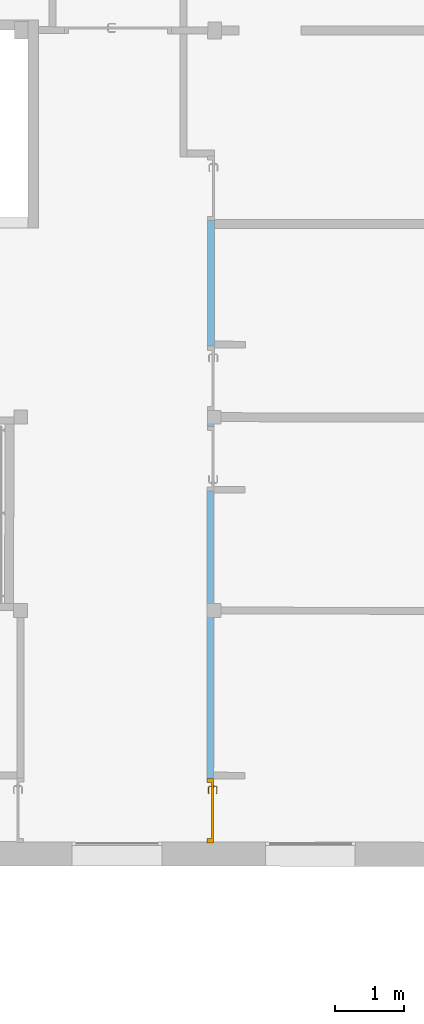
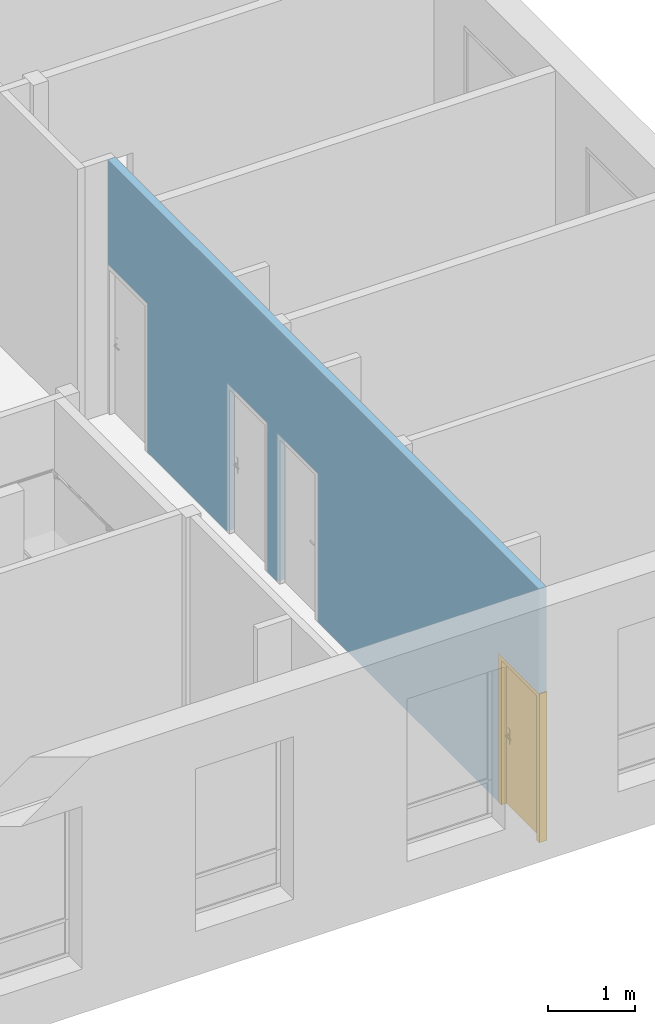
# One storey, part 74 of 101: 1 door, 4 openings, plus 1 element that does not belong to this part.
"""IFC2X3 building model written with IfcOpenShell, lengths in metres."""

from ifc_helpers import new_model, entity, si_unit, converted_unit, derived_unit, direction, frame, frame_2d, origin, place, context, subcontext, project, spatial, rectangle, extrude, faceted_brep, source, transform, mapped, material, material_list, layer, layer_set, layer_usage, type_object, type_shapes, element, fill, save


model = new_model("IFC2X3")

# Units and contexts
model_context = context("Model", 3, precision=1e-05, world=origin(), true_north=direction((6.123233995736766e-17, 1.0)))
body_context = subcontext(model_context, "Body", "Model", "MODEL_VIEW")
ifc_project = project(units=[si_unit("LENGTHUNIT", "METRE"), si_unit("AREAUNIT", "SQUARE_METRE"), converted_unit("PLANEANGLEUNIT", "DEGREE", entity("IfcPlaneAngleMeasure", 0.017453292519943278), si_unit("PLANEANGLEUNIT", "RADIAN"), dimensions=[0, 0, 0, 0, 0, 0, 0]), derived_unit("THERMALTRANSMITTANCEUNIT", [(si_unit("MASSUNIT", "GRAM", prefix="KILO"), 1), (si_unit("THERMODYNAMICTEMPERATUREUNIT", "KELVIN"), -1), (si_unit("TIMEUNIT", "SECOND"), -3)])], contexts=[model_context])

# Site, building, storey
site_placement = place(None, frame((1253.6752467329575, 2072.143113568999, 91.49999999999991), z_axis=(0.0, 0.0, 1.0), x_axis=(0.7237211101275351, 0.6900925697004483, 0.0)))
site = spatial("IfcSite", under=ifc_project, at=site_placement, Name="Surface", CompositionType="ELEMENT")
building_placement = place(site_placement, origin())
building = spatial("IfcBuilding", under=site, at=building_placement, CompositionType="ELEMENT")
storey_placement = place(building_placement, origin())
storey = spatial("IfcBuildingStorey", under=building, at=storey_placement, Name="0- Rdc", CompositionType="ELEMENT", Elevation=-5.764692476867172e-13)

# Wall, openings, door
ifc_material_1 = material(Name="OMD_Béton blanc")
ifc_layer = layer(ifc_material_1, 0.1)
ifc_layer_set = layer_set([ifc_layer], Name="Mur de base:MUR 10")
ifc_layer_usage = layer_usage(ifc_layer_set, "AXIS2", "NEGATIVE", 0.05)
wall_type = type_object("IfcWallType", Name="Mur de base:MUR 10", PredefinedType="STANDARD", material=ifc_layer_set)
wall_placement = place(storey_placement, frame((182.31139510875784, -18.405602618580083, 0.0), z_axis=(0.0, 0.0, 1.0), x_axis=(-0.6909838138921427, -0.7228702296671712, 0.0)))
wall = element("IfcWallStandardCase", 1, at=wall_placement, inside=storey, type_object=wall_type, material=ifc_layer_usage, Name="Mur de base:MUR 10", ObjectType="Mur de base:MUR 10", context=body_context, shape_type="SweptSolid", body=[
    extrude(rectangle(XDim=9.914999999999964, YDim=0.10000000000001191, at=frame_2d((4.957499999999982, 2.4424906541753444e-15), x_axis=(-1.0, 0.0))), origin(), (0.0, 0.0, 1.0), 3.5499999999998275),
])
opening_1_placement = place(wall_placement, frame((-0.01749999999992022, -0.04999999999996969, 0.0)))
element("IfcOpeningElement", 2, at=opening_1_placement, cuts=wall, Name="OMD_Porte 1V tunnel:80x204:1", ObjectType="Opening", context=body_context, shape_type="SweptSolid", body=[
    extrude(rectangle(XDim=2.0850000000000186, YDim=0.9349999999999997, at=frame_2d((1.0425000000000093, 0.46749999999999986), x_axis=(1.0, 0.0))), frame((0.0, 0.0, 0.0), z_axis=(0.0, 1.0, 0.0), x_axis=(0.0, 0.0, 1.0)), (0.0, 0.0, 1.0), 0.1),
])
opening_2_placement = place(wall_placement, frame((2.7375000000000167, -0.04999999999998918, 0.0)))
element("IfcOpeningElement", 3, at=opening_2_placement, cuts=wall, Name="OMD_Porte 1V tunnel:80x204:1", ObjectType="Opening", context=body_context, shape_type="SweptSolid", body=[
    extrude(rectangle(XDim=2.0850000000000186, YDim=0.9349999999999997, at=frame_2d((1.0425000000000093, 0.46749999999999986), x_axis=(1.0, 0.0))), frame((0.0, 0.0, 0.0), z_axis=(0.0, 1.0, 0.0), x_axis=(0.0, 0.0, 1.0)), (0.0, 0.0, 1.0), 0.1),
])
opening_3_placement = place(wall_placement, frame((3.8974999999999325, -0.04999999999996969, 0.0)))
element("IfcOpeningElement", 4, at=opening_3_placement, cuts=wall, Name="OMD_Porte 1V tunnel:80x204:1", ObjectType="Opening", context=body_context, shape_type="SweptSolid", body=[
    extrude(rectangle(XDim=2.0850000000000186, YDim=0.9349999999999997, at=frame_2d((1.0425000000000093, 0.46749999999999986), x_axis=(1.0, 0.0))), frame((0.0, 0.0, 0.0), z_axis=(0.0, 1.0, 0.0), x_axis=(0.0, 0.0, 1.0)), (0.0, 0.0, 1.0), 0.1),
])
opening_4_placement = place(wall_placement, frame((8.992500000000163, -0.050000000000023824, 0.0)))
opening_4 = element("IfcOpeningElement", 5, at=opening_4_placement, cuts=wall, Name="OMD_Porte 1V tunnel:80x204:1", ObjectType="Opening", context=body_context, shape_type="SweptSolid", body=[
    extrude(rectangle(XDim=2.0850000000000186, YDim=0.9349999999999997, at=frame_2d((1.0425000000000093, 0.46749999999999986), x_axis=(1.0, 0.0))), frame((0.0, 0.0, 0.0), z_axis=(0.0, 1.0, 0.0), x_axis=(0.0, 0.0, 1.0)), (0.0, 0.0, 1.0), 0.1),
])
ifc_material_2 = material(Name="Porte - Poignée")
ifc_material_3 = material(Name="OMD_Peinture mur")
ifc_material_4 = material(Name="OMD_Bois")
ifc_material_list = material_list([ifc_material_2, ifc_material_3, ifc_material_4])
door_style = type_object("IfcDoorStyle", Name="OMD_Porte 1V tunnel:80x204", ConstructionType="NOTDEFINED", OperationType="NOTDEFINED", ParameterTakesPrecedence=False, Sizeable=False, material=ifc_material_list)
shared_shape = source(origin(), body_context, "Body", "Brep", [
    faceted_brep([(0.8220252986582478, 0.03500000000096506, 1.0077804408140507), (0.8179747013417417, 0.03500000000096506, 1.007780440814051), (0.8139999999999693, 0.03500000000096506, 1.00699999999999), (0.8139999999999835, 0.03500000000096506, 0.9930000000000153), (0.8179747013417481, 0.03500000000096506, 0.9922195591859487), (0.8220252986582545, 0.03500000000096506, 0.9922195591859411), (0.8260000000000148, 0.03500000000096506, 0.9929999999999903), (0.826000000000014, 0.03500000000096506, 1.006999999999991), (0.8139999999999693, 0.05748520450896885, 1.00699999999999), (0.8139999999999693, 0.05748520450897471, 0.9930000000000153), (0.8179747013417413, 0.059131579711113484, 1.007780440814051), (0.8220252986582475, 0.060809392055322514, 1.0077804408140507), (0.8058389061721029, 0.07699578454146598, 1.0077804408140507), (0.8041610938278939, 0.07294518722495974, 1.007780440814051), (0.7207931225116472, 0.07294518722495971, 1.0077804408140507), (0.7191153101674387, 0.07699578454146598, 1.0077804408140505), (0.7114510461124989, 0.06933152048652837, 1.0077804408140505), (0.714315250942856, 0.0664673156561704, 1.0077804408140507), (0.8260000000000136, 0.062455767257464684, 1.006999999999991), (0.8260000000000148, 0.062455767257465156, 0.9929999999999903), (0.8220252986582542, 0.06080939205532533, 0.9922195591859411), (0.8179747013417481, 0.05913157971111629, 0.9922195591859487), (0.8041610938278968, 0.07294518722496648, 0.9922195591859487), (0.8058389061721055, 0.07699578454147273, 0.9922195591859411), (0.7191153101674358, 0.07699578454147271, 0.9922195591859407), (0.7207931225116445, 0.07294518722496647, 0.9922195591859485), (0.7143152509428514, 0.06646731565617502, 0.9922195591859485), (0.7114510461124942, 0.06933152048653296, 0.9922195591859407), (0.8025147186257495, 0.06897048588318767, 1.00699999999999), (0.8025147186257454, 0.06897048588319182, 0.9930000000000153), (0.8074852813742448, 0.08097048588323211, 1.006999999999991), (0.8074852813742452, 0.08097048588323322, 0.9929999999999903), (0.7624771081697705, 0.06897048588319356, 1.0069999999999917), (0.7224394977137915, 0.06897048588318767, 1.0069999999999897), (0.7224394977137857, 0.0689704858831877, 0.9930000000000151), (0.7624771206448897, 0.06897048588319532, 0.9930000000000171), (0.7624771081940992, 0.07512492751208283, 1.0078781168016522), (0.7573994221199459, 0.08097048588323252, 1.0069999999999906), (0.7174689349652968, 0.08097048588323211, 1.0069999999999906), (0.7675547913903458, 0.08097048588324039, 0.9929999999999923), (0.7174689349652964, 0.08097048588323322, 0.99299999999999), (0.762477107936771, 0.07512492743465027, 0.9921218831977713), (0.7086405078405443, 0.07214205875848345, 1.0069999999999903), (0.7086405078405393, 0.07214205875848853, 0.9929999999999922), (0.7171257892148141, 0.06365677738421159, 0.9930000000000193), (0.71712578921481, 0.06365677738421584, 1.0069999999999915)], [[[0, 1, 2, 3, 4, 5, 6, 7]], [[8, 9, 3, 2]], [[1, 10, 8, 2]], [[1, 0, 11, 12, 13, 10]], [[14, 15, 16, 17]], [[7, 18, 11, 0]], [[18, 7, 6, 19]], [[6, 5, 20, 19]], [[5, 4, 21, 22, 23, 20]], [[24, 25, 26, 27]], [[4, 3, 9, 21]], [[28, 29, 9, 8]], [[8, 10, 13, 28]], [[18, 30, 12, 11]], [[31, 30, 18, 19]], [[19, 20, 23, 31]], [[21, 9, 29, 22]], [[29, 28, 32, 33, 34, 35]], [[36, 32, 13]], [[37, 38, 15]], [[37, 12, 30]], [[36, 12, 37]], [[14, 32, 36]], [[36, 15, 14]], [[28, 13, 32]], [[32, 14, 33]], [[12, 36, 13]], [[15, 36, 37]], [[30, 31, 39, 40, 38, 37]], [[23, 41, 39]], [[24, 39, 41]], [[39, 31, 23]], [[39, 24, 40]], [[22, 35, 41]], [[41, 23, 22]], [[41, 35, 25]], [[35, 22, 29]], [[34, 25, 35]], [[24, 41, 25]], [[17, 16, 42, 43, 27, 26, 44, 45]], [[45, 44, 34, 33]], [[33, 14, 17, 45]], [[15, 38, 42, 16]], [[43, 42, 38, 40]], [[24, 27, 43, 40]], [[34, 44, 26, 25]]]),
    faceted_brep([(0.817974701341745, -0.004999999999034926, 1.007780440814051), (0.8220252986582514, -0.004999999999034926, 1.0077804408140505), (0.8260000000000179, -0.004999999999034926, 1.0069999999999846), (0.8260000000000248, -0.004999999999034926, 0.9929999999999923), (0.8220252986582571, -0.004999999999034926, 0.992219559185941), (0.817974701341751, -0.004999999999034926, 0.9922195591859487), (0.8139999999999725, -0.004999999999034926, 0.9930000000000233), (0.8139999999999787, -0.004999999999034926, 1.006999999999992), (0.8220252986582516, -0.03100457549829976, 1.0077804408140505), (0.8260000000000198, -0.03265095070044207, 1.0069999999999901), (0.8179747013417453, -0.02932676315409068, 1.007780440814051), (0.8042986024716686, -0.04300286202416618, 1.007780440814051), (0.8059764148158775, -0.04705345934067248, 1.0077804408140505), (0.7191424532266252, -0.04705345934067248, 1.0077804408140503), (0.7208202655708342, -0.04300286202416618, 1.0077804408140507), (0.714342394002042, -0.03652499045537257, 1.0077804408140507), (0.7114781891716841, -0.039389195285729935, 1.0077804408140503), (0.813999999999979, -0.02768038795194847, 1.006999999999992), (0.8139999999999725, -0.02768038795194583, 0.9930000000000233), (0.817974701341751, -0.029326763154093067, 0.9922195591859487), (0.8220252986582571, -0.031004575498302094, 0.992219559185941), (0.8059764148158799, -0.0470534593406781, 0.992219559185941), (0.804298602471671, -0.04300286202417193, 0.9922195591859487), (0.7208202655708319, -0.04300286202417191, 0.9922195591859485), (0.7191424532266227, -0.047053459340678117, 0.9922195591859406), (0.71147818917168, -0.03938919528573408, 0.9922195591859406), (0.7143423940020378, -0.036524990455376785, 0.9922195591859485), (0.8260000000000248, -0.032650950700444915, 0.9929999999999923), (0.807622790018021, -0.051028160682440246, 1.0069999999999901), (0.8026522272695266, -0.03902816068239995, 1.006999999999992), (0.8026522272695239, -0.03902816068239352, 0.9930000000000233), (0.8076227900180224, -0.05102816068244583, 0.9929999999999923), (0.762559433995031, -0.0451828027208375, 1.0078781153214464), (0.7676923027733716, -0.05102816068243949, 1.0069999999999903), (0.7174960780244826, -0.05102816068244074, 1.00699999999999), (0.7625594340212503, -0.03902816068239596, 1.0069999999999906), (0.7224666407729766, -0.039028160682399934, 1.0069999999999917), (0.7625594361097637, -0.03902816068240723, 0.9930000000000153), (0.7224666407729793, -0.03902816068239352, 0.9930000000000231), (0.7625594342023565, -0.04518280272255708, 0.9921218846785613), (0.7574265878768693, -0.051028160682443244, 0.9929999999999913), (0.7174960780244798, -0.05102816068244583, 0.9929999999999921), (0.7171529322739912, -0.033714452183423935, 0.9930000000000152), (0.7086676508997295, -0.04219973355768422, 0.9929999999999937), (0.7086676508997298, -0.04219973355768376, 1.0069999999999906), (0.717152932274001, -0.03371445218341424, 1.0069999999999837)], [[[0, 1, 2, 3, 4, 5, 6, 7]], [[2, 1, 8, 9]], [[1, 0, 10, 11, 12, 8]], [[13, 14, 15, 16]], [[0, 7, 17, 10]], [[18, 17, 7, 6]], [[5, 19, 18, 6]], [[5, 4, 20, 21, 22, 19]], [[23, 24, 25, 26]], [[3, 27, 20, 4]], [[9, 27, 3, 2]], [[9, 8, 12, 28]], [[10, 17, 29, 11]], [[30, 29, 17, 18]], [[18, 19, 22, 30]], [[20, 27, 31, 21]], [[28, 31, 27, 9]], [[12, 32, 33]], [[13, 33, 32]], [[33, 28, 12]], [[33, 13, 34]], [[11, 35, 32]], [[32, 12, 11]], [[32, 35, 14]], [[35, 11, 29]], [[36, 14, 35]], [[13, 32, 14]], [[29, 30, 37, 38, 36, 35]], [[39, 37, 22]], [[40, 41, 24]], [[40, 21, 31]], [[39, 21, 40]], [[23, 37, 39]], [[39, 24, 23]], [[30, 22, 37]], [[37, 23, 38]], [[21, 39, 22]], [[24, 39, 40]], [[31, 28, 33, 34, 41, 40]], [[42, 26, 25, 43, 44, 16, 15, 45]], [[13, 16, 44, 34]], [[36, 45, 15, 14]], [[42, 45, 36, 38]], [[38, 23, 26, 42]], [[24, 41, 43, 25]], [[44, 43, 41, 34]]]),
    faceted_brep([(0.8199999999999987, 0.030000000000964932, 0.8646410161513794), (0.8303527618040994, 0.03000000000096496, 0.866003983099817), (0.8399999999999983, 0.030000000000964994, 0.8700000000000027), (0.8399999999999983, 0.030000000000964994, 1.0800000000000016), (0.8303527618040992, 0.03000000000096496, 1.0839960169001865), (0.8199999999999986, 0.030000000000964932, 1.0853589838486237), (0.809647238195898, 0.030000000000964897, 1.0839960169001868), (0.7999999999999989, 0.030000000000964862, 1.0800000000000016), (0.7999999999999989, 0.030000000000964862, 0.8700000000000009), (0.8096472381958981, 0.030000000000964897, 0.8660039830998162), (0.8199999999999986, 0.03500000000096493, 1.0853589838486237), (0.8303527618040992, 0.03500000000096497, 1.0839960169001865), (0.8399999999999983, 0.035000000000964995, 1.0800000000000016), (0.8399999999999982, 0.035000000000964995, 0.8700000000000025), (0.8303527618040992, 0.03500000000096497, 0.866003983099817), (0.8199999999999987, 0.03500000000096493, 0.8646410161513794), (0.8096472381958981, 0.0350000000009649, 0.8660039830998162), (0.7999999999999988, 0.03500000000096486, 0.8700000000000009), (0.7999999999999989, 0.03500000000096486, 1.0800000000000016), (0.809647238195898, 0.0350000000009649, 1.0839960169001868)], [[[0, 1, 2, 3, 4, 5, 6, 7, 8, 9]], [[10, 11, 12, 13, 14, 15, 16, 17, 18, 19]], [[6, 19, 18, 7]], [[5, 10, 19, 6]], [[4, 11, 10, 5]], [[4, 3, 12, 11]], [[12, 3, 2, 13]], [[1, 14, 13, 2]], [[0, 15, 14, 1]], [[9, 16, 15, 0]], [[9, 8, 17, 16]], [[17, 8, 7, 18]]]),
    faceted_brep([(0.819999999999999, -0.004999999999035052, 0.8646410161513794), (0.8303527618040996, -0.0049999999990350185, 0.8660039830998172), (0.8399999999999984, -0.004999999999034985, 0.8700000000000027), (0.8399999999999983, -0.004999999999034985, 1.0800000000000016), (0.8303527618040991, -0.0049999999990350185, 1.0839960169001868), (0.8199999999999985, -0.004999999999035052, 1.0853589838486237), (0.8096472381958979, -0.004999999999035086, 1.0839960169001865), (0.7999999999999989, -0.004999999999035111, 1.0800000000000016), (0.7999999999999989, -0.004999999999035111, 0.8700000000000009), (0.8096472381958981, -0.004999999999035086, 0.8660039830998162), (0.8399999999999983, 0.0, 1.0800000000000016), (0.8399999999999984, 0.0, 0.8700000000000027), (0.8303527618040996, 0.0, 0.8660039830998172), (0.819999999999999, 0.0, 0.8646410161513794), (0.8096472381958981, 0.0, 0.8660039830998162), (0.7999999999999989, 0.0, 0.8700000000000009), (0.7999999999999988, 0.0, 1.0800000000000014), (0.8096472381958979, 0.0, 1.0839960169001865), (0.8199999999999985, 0.0, 1.0853589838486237), (0.8303527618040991, 0.0, 1.0839960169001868)], [[[0, 1, 2, 3, 4, 5, 6, 7, 8, 9]], [[10, 11, 12, 13, 14, 15, 16, 17, 18, 19]], [[1, 12, 11, 2]], [[0, 13, 12, 1]], [[9, 14, 13, 0]], [[9, 8, 15, 14]], [[15, 8, 7, 16]], [[6, 17, 16, 7]], [[5, 18, 17, 6]], [[4, 19, 18, 5]], [[4, 3, 10, 19]], [[10, 3, 2, 11]]]),
    faceted_brep([(0.89, 0.030000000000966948, 0.0), (0.89, 0.0, 0.0), (0.04500000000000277, 0.0, 0.0), (0.04500000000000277, 0.030000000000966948, 0.0), (0.89, 0.030000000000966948, 2.04), (0.89, 0.0, 2.04), (0.04500000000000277, 0.0, 2.04), (0.04500000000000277, 0.030000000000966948, 2.04)], [[[0, 1, 2, 3]], [[4, 5, 1, 0]], [[5, 6, 2, 1]], [[6, 7, 3, 2]], [[7, 4, 0, 3]], [[4, 7, 6, 5]]]),
    faceted_brep([(0.9350000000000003, 0.0, 0.0), (0.89, 0.0, 0.0), (0.8900000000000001, 0.03000000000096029, 0.0), (0.8750000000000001, 0.030000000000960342, 0.0), (0.8750000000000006, 0.10000000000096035, 0.0), (0.9350000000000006, 0.10000000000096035, 0.0), (0.9350000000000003, 0.0, 2.085), (0.0, 0.0, 2.085), (0.0, 0.0, 0.0), (0.04500000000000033, 0.0, 0.0), (0.04500000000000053, 0.0, 2.04), (0.8899999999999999, 0.0, 2.0399999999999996), (0.89, 0.030000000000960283, 2.0399999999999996), (0.0450000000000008, 0.03000000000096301, 2.0399999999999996), (0.0450000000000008, 0.030000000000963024, 0.0), (0.060000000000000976, 0.030000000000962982, 0.0), (0.060000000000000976, 0.03000000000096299, 2.0249999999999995), (0.8750000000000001, 0.03000000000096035, 2.025), (0.8750000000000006, 0.10000000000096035, 2.0250000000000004), (0.060000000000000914, 0.10000000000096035, 2.025), (0.060000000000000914, 0.10000000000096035, 0.0), (0.0, 0.10000000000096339, 0.0), (0.0, 0.10000000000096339, 2.085), (0.9350000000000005, 0.10000000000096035, 2.085)], [[[0, 1, 2, 3, 4, 5]], [[1, 0, 6, 7, 8, 9, 10, 11]], [[2, 1, 11, 12]], [[3, 2, 12, 13, 14, 15, 16, 17]], [[4, 3, 17, 18]], [[5, 4, 18, 19, 20, 21, 22, 23]], [[0, 5, 23, 6]], [[7, 22, 21, 8]], [[8, 21, 20, 15, 14, 9]], [[13, 10, 9, 14]], [[19, 16, 15, 20]], [[12, 11, 10, 13]], [[18, 17, 16, 19]], [[6, 23, 22, 7]]]),
])
type_shapes(door_style, [shared_shape])
door_placement = place(opening_4_placement, frame((0.9350000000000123, 0.10000000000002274, 0.0), z_axis=(0.0, 0.0, 1.0), x_axis=(-1.0, 0.0, 0.0)))
door = element("IfcDoor", 6, at=door_placement, inside=storey, type_object=door_style, material=ifc_material_list, Name="OMD_Porte 1V tunnel:80x204", ObjectType="OMD_Porte 1V tunnel:80x204", OverallHeight=2.0850000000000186, OverallWidth=0.9349999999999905, context=body_context, shape_type="MappedRepresentation", body=[
    mapped(shared_shape, transform((0.0, 0.0, 0.0), scale=1.0)),
])
fill(opening_4, door)

save(model, "model.ifc")
